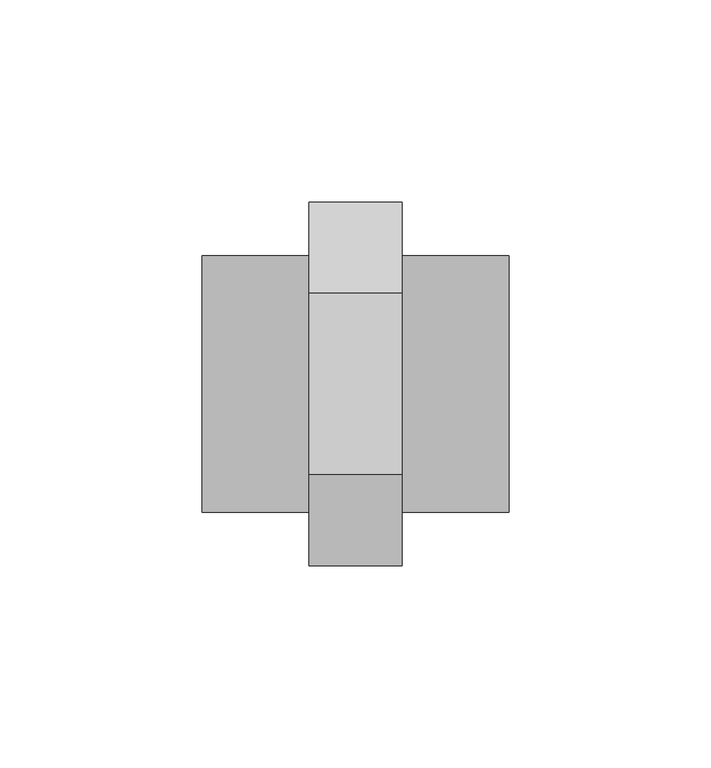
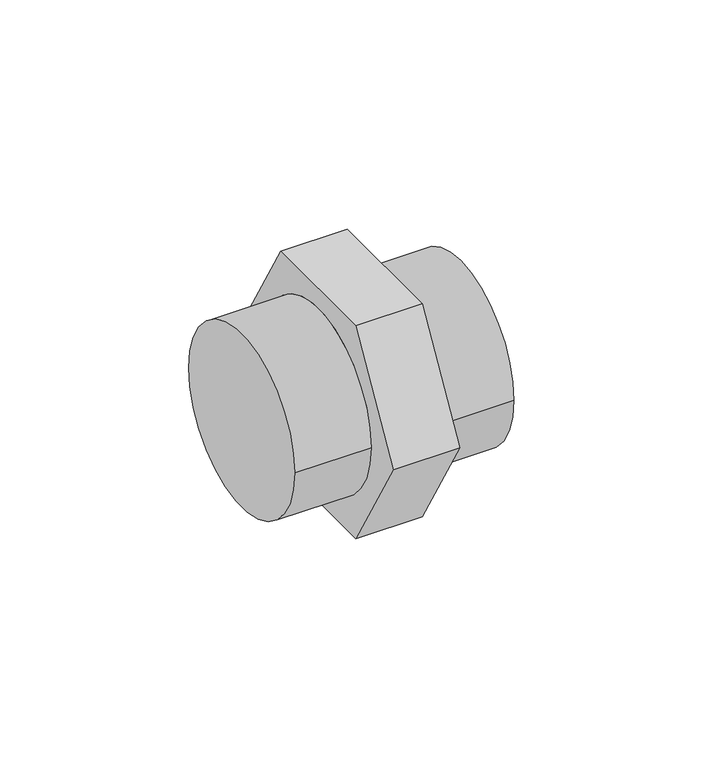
"""IFC4 building model written with IfcOpenShell, lengths in millimetres: pipe fitting geometry, 01011009 : Machones doble rosca."""

from ifc_helpers import new_model, si_unit, frame, origin, place, context, project, spatial, circle_curve, source, transform, mapped, element, save
from ifc_brep_helpers import plane_surface, cylinder_surface, advanced_brep


def pipe_fitting_13549aa7(model_context):
    return source(origin(), model_context, "Body", "AdvancedBrep", [
        advanced_brep(
        [(11.5, -22.5166605, 39.0), (11.5, -45.033321, 0.0), (11.5, -22.5166605, -39.0), (11.5, 22.5166605, -39.0), (11.5, 45.033321, 0.0), (11.5, 22.5166605, 39.0), (11.5, -31.75, 0.0), (11.5, 31.75, 0.0), (-11.5, -22.5166605, 39.0), (-11.5, 22.5166605, 39.0), (-11.5, 45.033321, 0.0), (-11.5, 22.5166605, -39.0), (-11.5, -22.5166605, -39.0), (-11.5, -45.033321, 0.0), (-11.5, 31.75, 0.0), (-11.5, -31.75, 0.0), (-38.0, -31.75, 0.0), (-38.0, 31.75, 0.0), (38.0, -31.75, 0.0), (38.0, 31.75, 0.0)],
        [
            (0, 1),
            (1, 2),
            (2, 3),
            (3, 4),
            (4, 5),
            (5, 0),
            (6, 7, circle_curve(frame((11.5, 0.0, 0.0), z_axis=(-1.0, 0.0, 0.0), x_axis=(0.0, 1.0, 0.0)), 31.75)),
            (7, 6, circle_curve(frame((11.5, 0.0, 0.0), z_axis=(-1.0, 0.0, 0.0), x_axis=(0.0, 1.0, 0.0)), 31.75)),
            (8, 9),
            (9, 10),
            (10, 11),
            (11, 12),
            (12, 13),
            (13, 8),
            (14, 15, circle_curve(frame((-11.5, 0.0, 0.0), z_axis=(1.0, 0.0, 0.0), x_axis=(0.0, 1.0, 0.0)), 31.75)),
            (15, 14, circle_curve(frame((-11.5, 0.0, 0.0), z_axis=(1.0, 0.0, 0.0), x_axis=(0.0, 1.0, 0.0)), 31.75)),
            (0, 8),
            (13, 1),
            (12, 2),
            (11, 3),
            (10, 4),
            (9, 5),
            (16, 17, circle_curve(frame((-38.0, 0.0, 0.0), z_axis=(-1.0, 0.0, 0.0), x_axis=(0.0, 1.0, 0.0)), 31.75)),
            (17, 16, circle_curve(frame((-38.0, 0.0, 0.0), z_axis=(-1.0, 0.0, 0.0), x_axis=(0.0, 1.0, 0.0)), 31.75)),
            (18, 19, circle_curve(frame((38.0, 0.0, 0.0), z_axis=(1.0, 0.0, 0.0), x_axis=(0.0, 1.0, 0.0)), 31.75)),
            (19, 18, circle_curve(frame((38.0, 0.0, 0.0), z_axis=(1.0, 0.0, 0.0), x_axis=(0.0, 1.0, 0.0)), 31.75)),
            (16, 15),
            (14, 17),
            (19, 7),
            (6, 18),
        ],
        [
            plane_surface(frame((11.5, -22.5166605, 39.0), z_axis=(1.0000000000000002, 0.0, 0.0), x_axis=(0.0, -0.5000000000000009, -0.8660254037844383))),
            plane_surface(frame((-11.5, -22.5166605, 39.0), z_axis=(-1.0000000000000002, 0.0, 0.0), x_axis=(0.0, 0.5000000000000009, 0.8660254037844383))),
            plane_surface(frame((11.5, -22.5166605, 39.0), z_axis=(0.0, -0.8660254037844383, 0.5000000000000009), x_axis=(-1.0, 0.0, 0.0))),
            plane_surface(frame((11.5, -45.033321, 0.0), z_axis=(0.0, -0.8660254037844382, -0.500000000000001), x_axis=(-1.0, 0.0, 0.0))),
            plane_surface(frame((11.5, -22.5166605, -39.0), z_axis=(0.0, 0.0, -1.0), x_axis=(-1.0, 0.0, 0.0))),
            plane_surface(frame((11.5, 22.5166605, -39.0), z_axis=(0.0, 0.8660254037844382, -0.5000000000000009), x_axis=(-1.0, 0.0, 0.0))),
            plane_surface(frame((11.5, 45.033321, 0.0), z_axis=(0.0, 0.8660254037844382, 0.500000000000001), x_axis=(-1.0, 0.0, 0.0))),
            plane_surface(frame((11.5, 22.5166605, 39.0), z_axis=(0.0, 0.0, 1.0), x_axis=(-1.0, 0.0, 0.0))),
            plane_surface(frame((-38.0, 0.0, 0.0), z_axis=(-1.0, 0.0, 0.0), x_axis=(0.0, 0.0, 1.0))),
            plane_surface(frame((38.0, 0.0, 0.0), z_axis=(1.0, 0.0, 0.0), x_axis=(0.0, 0.0, 1.0))),
            cylinder_surface(frame((-38.0, 0.0, 0.0), z_axis=(-1.0, 0.0, 0.0), x_axis=(0.0, 1.0, 0.0)), 31.75),
        ],
        [
            (0, [[1, 2, 3, 4, 5, 6], [7, 8]]),
            (1, [[9, 10, 11, 12, 13, 14], [15, 16]]),
            (2, [[-1, 17, -14, 18]]),
            (3, [[-2, -18, -13, 19]]),
            (4, [[-3, -19, -12, 20]]),
            (5, [[-4, -20, -11, 21]]),
            (6, [[-5, -21, -10, 22]]),
            (7, [[-6, -22, -9, -17]]),
            (8, [[23, 24]]),
            (9, [[25, 26]]),
            (10, [[-23, 27, -15, 28]]),
            (10, [[-26, 29, -7, 30]]),
            (10, [[-24, -28, -16, -27]]),
            (10, [[-25, -30, -8, -29]]),
        ],
    ),
    ])


if __name__ == "__main__":
    model = new_model("IFC4")
    model_context = context("Model", 3, world=origin())
    ifc_project = project(units=[si_unit("LENGTHUNIT", "METRE", prefix="MILLI")], contexts=[model_context])
    site = spatial("IfcSite", under=ifc_project)
    building = spatial("IfcBuilding", under=site)
    placement = place(None, origin())
    pipe_fitting_shape = pipe_fitting_13549aa7(model_context)
    element("IfcPipeFitting", 1, ObjectType="01011009 : Machones doble rosca", at=placement, inside=building, context=model_context, shape_type="MappedRepresentation", body=[
        mapped(pipe_fitting_shape, transform((0.0, 0.0, 0.0), x_axis=(1.0, 0.0, 0.0), y_axis=(0.0, 1.0, 0.0), z_axis=(0.0, 0.0, 1.0))),
    ])
    save(model, "model.ifc")
